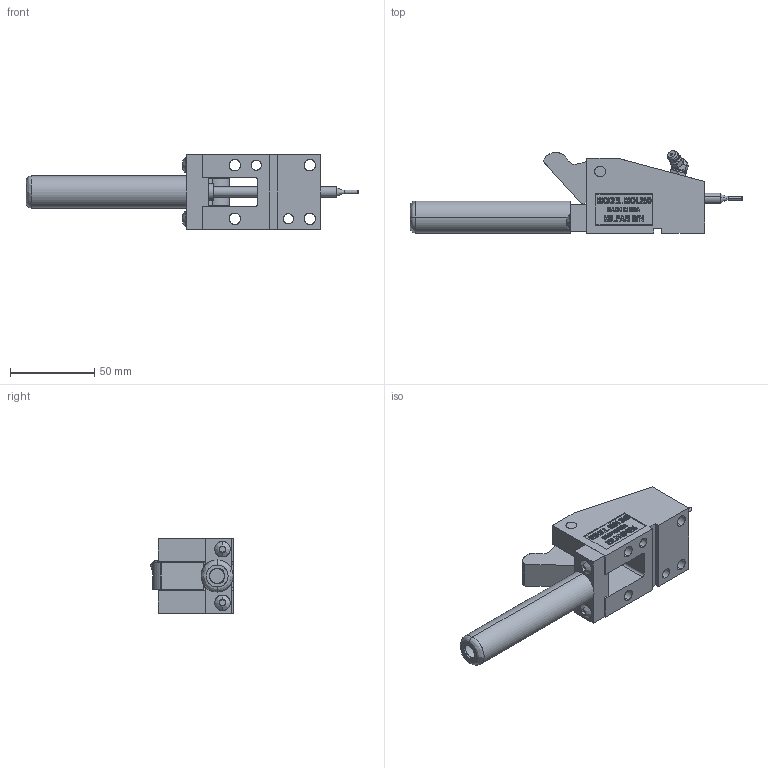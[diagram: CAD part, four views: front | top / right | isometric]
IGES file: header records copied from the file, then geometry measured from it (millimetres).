
Start section: SolidWorks IGES file using analytic representation for surfaces
Global section: file name: Y:\3\MOL25045\OPEN\MOL25045-O.IGS; native system: SolidWorks 2006 by SolidWorks Corporation; preprocessor: SolidWorks 2006 by SolidWorks Corporation; author: Jim; date: 090125.175906; units: inch
Bounding box: 196.85 x 48.87 x 44.45 mm (x, y, z)
Surface area: 45376.7 mm2 (no closed solid volume)
Topology: 0 solids, 0 shells, 599 faces, 7630 edges, 7628 vertices
Faces by surface type: bspline 477, revolution 122
